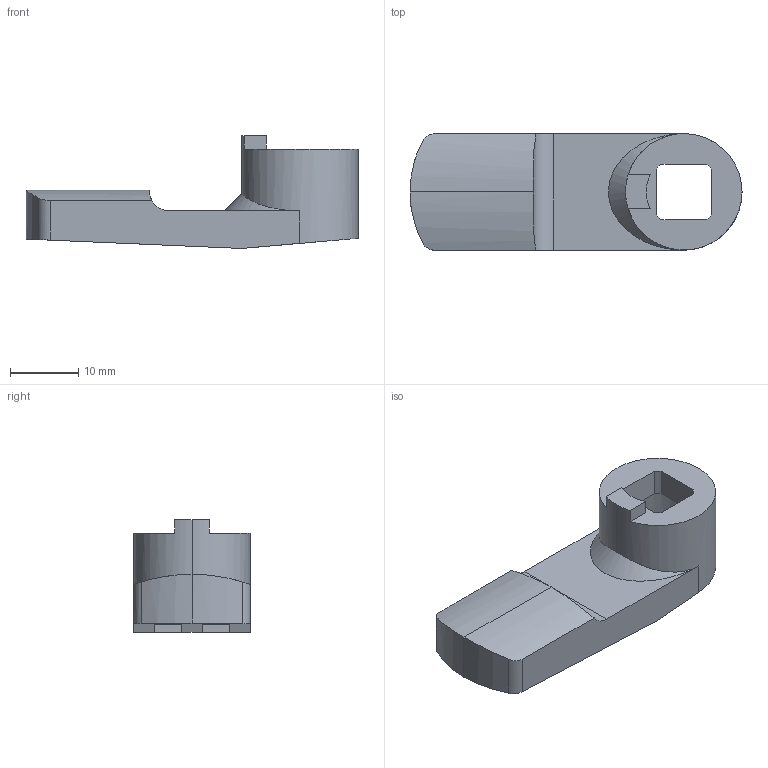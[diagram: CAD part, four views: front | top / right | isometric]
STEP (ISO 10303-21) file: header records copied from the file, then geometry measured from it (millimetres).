
FILE_DESCRIPTION (( 'STEP AP214' ), '1' );
FILE_NAME ('JP2-10024.STEP', '2016-08-17T10:00:26', ( 'RST-Dolba' ), ( '' ), 'SwSTEP 2.0', 'SolidWorks 2015', '' );
FILE_SCHEMA (( 'AUTOMOTIVE_DESIGN' ));
Length unit declared in the file: millimetre
Products named in the file (1): JP2-10024
Bounding box: 48.5 x 17 x 16.5 mm (x, y, z)
Volume: 4278 mm3; surface area: 3516.4 mm2
Topology: 1 solids, 1 shells, 54 faces, 144 edges, 95 vertices
Faces by surface type: plane 28, cylinder 25, bspline 1
Entity records: 1893 total; most frequent: CARTESIAN_POINT 514, ORIENTED_EDGE 288, DIRECTION 271, EDGE_CURVE 144, VERTEX_POINT 95, LINE 91, VECTOR 91, AXIS2_PLACEMENT_3D 90
